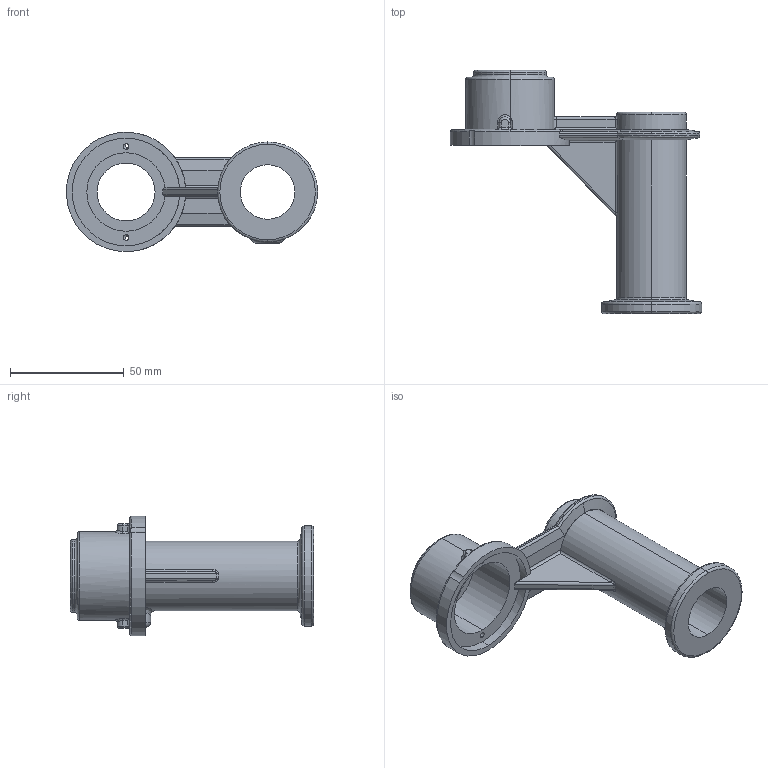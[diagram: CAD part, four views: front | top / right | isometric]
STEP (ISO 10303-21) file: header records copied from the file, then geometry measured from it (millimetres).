
FILE_DESCRIPTION (( 'STEP AP203' ), '1' );
FILE_NAME ('62.STEP', '2025-02-10T09:11:31', ( '' ), ( '' ), 'SwSTEP 2.0', 'SolidWorks 2021', '' );
FILE_SCHEMA (( 'CONFIG_CONTROL_DESIGN' ));
Length unit declared in the file: millimetre
Products named in the file (1): 62
Bounding box: 110.48 x 106.92 x 52.5 mm (x, y, z)
Volume: 49727.6 mm3; surface area: 32061.6 mm2
Topology: 1 solids, 1 shells, 163 faces, 420 edges, 259 vertices
Faces by surface type: cylinder 70, torus 34, plane 31, bspline 17, cone 11
Entity records: 6310 total; most frequent: CARTESIAN_POINT 2437, ORIENTED_EDGE 840, DIRECTION 768, EDGE_CURVE 420, AXIS2_PLACEMENT_3D 322, VERTEX_POINT 259, CIRCLE 175, EDGE_LOOP 173
